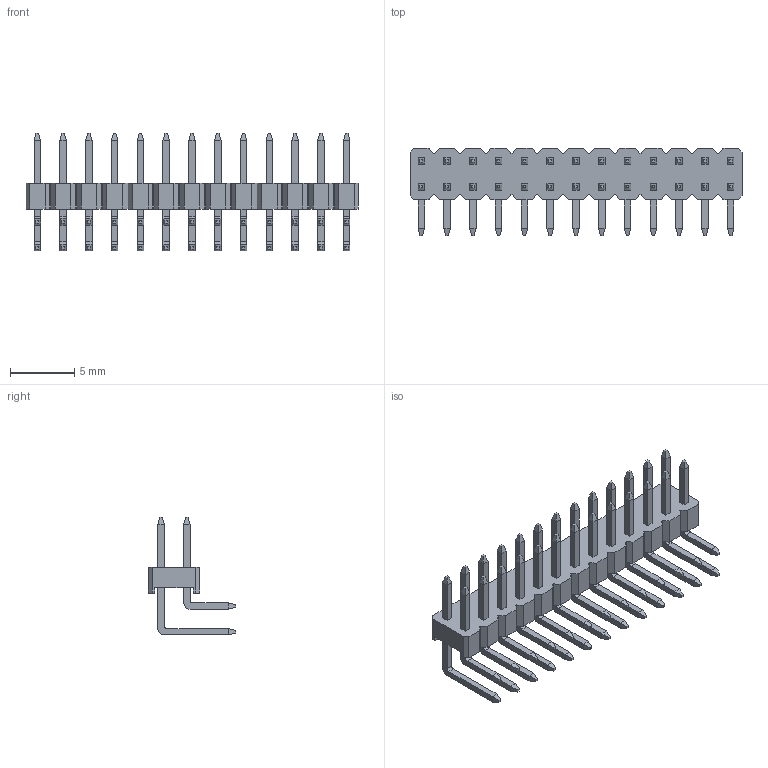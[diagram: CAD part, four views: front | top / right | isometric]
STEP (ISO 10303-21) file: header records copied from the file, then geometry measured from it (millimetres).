
FILE_DESCRIPTION (( 'STEP AP214' ), '1' );
FILE_NAME ('2112-2X13G00RB.STEP', '2019-01-16T05:25:09', ( 'ADMIN' ), ( '' ), 'SwSTEP 2.0', 'SolidWorks 2011', '' );
FILE_SCHEMA (( 'AUTOMOTIVE_DESIGN' ));
Length unit declared in the file: millimetre
Products named in the file (4): 零件27; 針2; 零件26; 2112-2X13G00RB
Assembly tree (27 placements, depth 2):
  2112-2X13G00RB
    零件27  x13
    針2  x13
    零件26
Bounding box: 25.75 x 6.8 x 9.15 mm (x, y, z)
Volume: 234.3 mm3; surface area: 1060.8 mm2
Topology: 27 solids, 27 shells, 682 faces, 1676 edges, 1048 vertices
Faces by surface type: plane 630, cylinder 52
Entity records: 8826 total; most frequent: CARTESIAN_POINT 1468, ORIENTED_EDGE 1432, DIRECTION 1284, EDGE_CURVE 716, VECTOR 708, LINE 708, VERTEX_POINT 472, EDGE_LOOP 302
